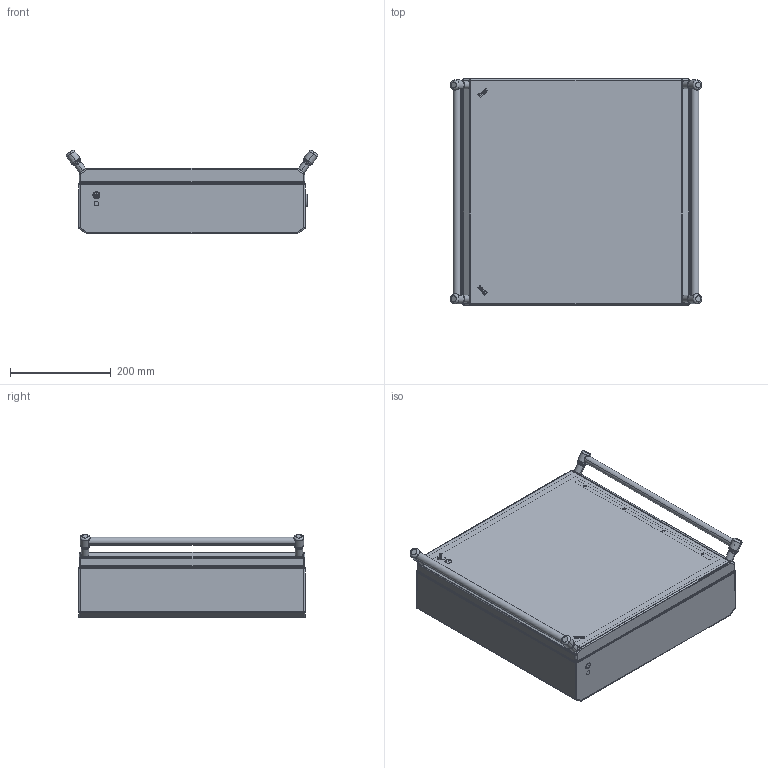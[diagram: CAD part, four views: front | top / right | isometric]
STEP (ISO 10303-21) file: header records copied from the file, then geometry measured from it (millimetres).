
FILE_DESCRIPTION (( 'STEP AP203' ), '1' );
FILE_NAME ('BK44AM-COM.step', '2023-09-19T13:19:52', ( '' ), ( '' ), 'SwSTEP 2.0', 'SolidWorks 2021', '' );
FILE_SCHEMA (( 'CONFIG_CONTROL_DESIGN' ));
Length unit declared in the file: millimetre
Products named in the file (20): BK44AM-COM; 1000-03-PG^1000-u183_ SG215S_Assiemi Box serie BK33-BK75M; OLD-ADMT_ADMT; 1000-02-RA_1^ 1000-U134_ SG215S_Assiemi Box serie BK33-BK75M;  SG215S^Assiemi Box serie BK33-BK75M_Chiusura_BASSO; Scarpetta Box serie BK; 1000-u183^ SG215S_Assiemi Box serie BK33-BK75M; LOGO_ILINOX; Tubo maniglia Box BK H300-H550_TMBK450; 1000-101-GPF_GPD_1^ 1000-U134_ SG215S_Assiemi Box serie BK33-BK75M; Fasciame FABK33- FABK75M_FABK44; PRM615TL316; Staffa Serraggio Box BK_SSBKH450; 1000-24^1000-u183_ SG215S_Assiemi Box serie BK33-BK75M; Porte Box BK33-BK75M_POBK44M; 1000-156-01^1000-u183_ SG215S_Assiemi Box serie BK33-BK75M; 1000-277-01PI^1000-u183_ SG215S_Assiemi Box serie BK33-BK75M; Parte7^ SG215S_Assiemi Box serie BK33-BK75M; Guarnizione Schiumata 13x6.5_GBK44-GBK44M;  1000-U134^ SG215S_Assiemi Box serie BK33-BK75M
Assembly tree (25 placements, depth 4):
  BK44AM-COM
    Fasciame FABK33- FABK75M_FABK44
    Porte Box BK33-BK75M_POBK44M
    Guarnizione Schiumata 13x6.5_GBK44-GBK44M
    Staffa Serraggio Box BK_SSBKH450
    Scarpetta Box serie BK
    Tubo maniglia Box BK H300-H550_TMBK450  x2
     SG215S^Assiemi Box serie BK33-BK75M_Chiusura_BASSO
       1000-U134^ SG215S_Assiemi Box serie BK33-BK75M
        1000-101-GPF_GPD_1^ 1000-U134_ SG215S_Assiemi Box serie BK33-BK75M
        1000-02-RA_1^ 1000-U134_ SG215S_Assiemi Box serie BK33-BK75M
      1000-u183^ SG215S_Assiemi Box serie BK33-BK75M
        1000-156-01^1000-u183_ SG215S_Assiemi Box serie BK33-BK75M
        1000-03-PG^1000-u183_ SG215S_Assiemi Box serie BK33-BK75M
        1000-24^1000-u183_ SG215S_Assiemi Box serie BK33-BK75M
        1000-277-01PI^1000-u183_ SG215S_Assiemi Box serie BK33-BK75M
      Parte7^ SG215S_Assiemi Box serie BK33-BK75M
    OLD-ADMT_ADMT  x2
    LOGO_ILINOX  x2
    PRM615TL316  x4
Bounding box: 499.31 x 450 x 166.07 mm (x, y, z)
Volume: 1366332.3 mm3; surface area: 1514467.2 mm2
Topology: 47 solids, 54 shells, 1251 faces, 2899 edges, 1762 vertices
Faces by surface type: plane 596, cylinder 438, cone 72, torus 64, sphere 50, bspline 31
Entity records: 33899 total; most frequent: CARTESIAN_POINT 8158, DIRECTION 5179, ORIENTED_EDGE 4675, EDGE_CURVE 2341, AXIS2_PLACEMENT_3D 1973, VERTEX_POINT 1444, VECTOR 1233, LINE 1233
